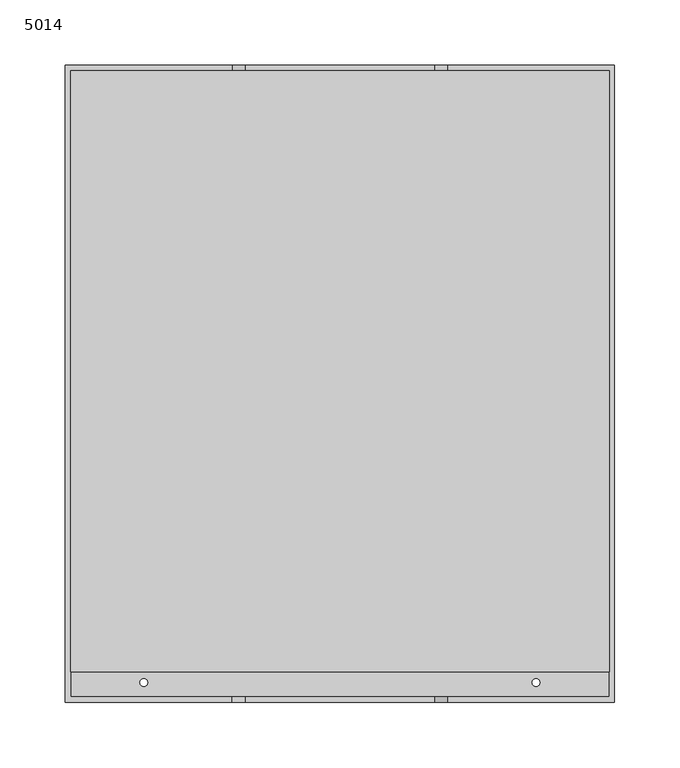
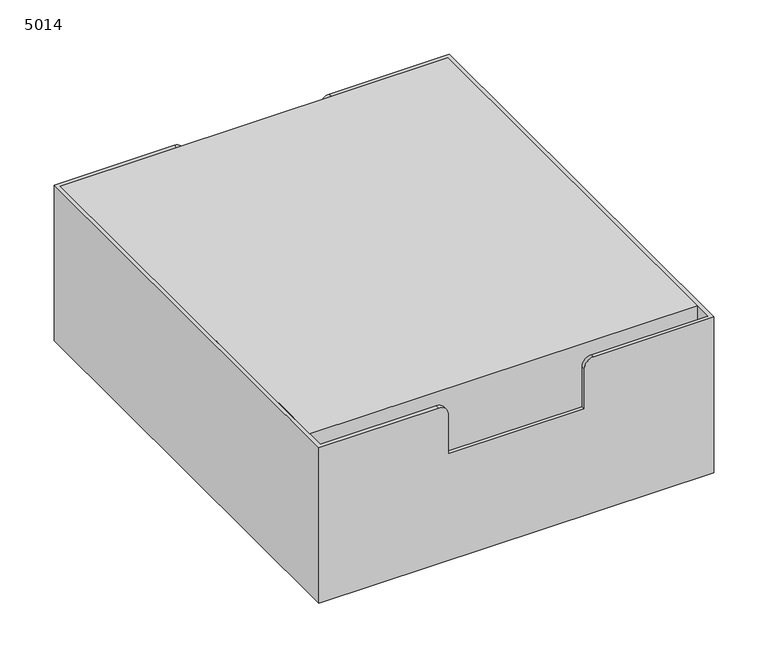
"""IFC4 building model written with IfcOpenShell, lengths in millimetres: alarm geometry, 5014_Cabinet for Batteries : 5014."""

from ifc_helpers import new_model, si_unit, frame, origin, place, context, project, spatial, polyline, circle_curve, source, transform, mapped, element, save
from ifc_brep_helpers import plane_surface, cylinder_surface, revolved_surface, advanced_brep


def alarm_5014_8c05c2c1(model_context):
    return source(origin(), model_context, "Body", "AdvancedBrep", [
        advanced_brep(
        [(206.0, 239.5, 175.0), (-206.0, 239.5, 175.0), (-206.0, -220.2, 175.0), (206.0, -220.2, 175.0), (202.0, 235.5, 171.0), (202.0, -216.2, 171.0), (-202.0, -216.2, 171.0), (-202.0, 235.5, 171.0), (206.0, -239.5, 3.0), (-206.0, -239.5, 3.0), (-206.0, 239.5, 3.0), (206.0, 239.5, 3.0), (-202.0, -216.2, 3.0), (202.0, -216.2, 3.0), (202.0, 220.2, 3.0), (-202.0, 220.2, 3.0), (-153.0, 228.5, 3.0), (-147.0, 228.5, 3.0), (147.0, 228.5, 3.0), (153.0, 228.5, 3.0), (-153.0, -228.5, 3.0), (-147.0, -228.5, 3.0), (147.0, -228.5, 3.0), (153.0, -228.5, 3.0), (-206.0, -239.5, 7.0), (-206.0, -220.2, 7.0), (206.0, -220.2, 7.0), (206.0, -239.5, 7.0), (202.0, 235.5, 7.0), (202.0, 220.2, 7.0), (-202.0, 220.2, 7.0), (-202.0, 235.5, 7.0), (-153.0, -228.5, 7.0), (-147.0, -228.5, 7.0), (147.0, -228.5, 7.0), (153.0, -228.5, 7.0), (-153.0, 228.5, 7.0), (-147.0, 228.5, 7.0), (147.0, 228.5, 7.0), (153.0, 228.5, 7.0)],
        [
            (0, 1),
            (1, 2),
            (2, 3),
            (3, 0),
            (4, 5),
            (5, 6),
            (6, 7),
            (7, 4),
            (8, 9),
            (9, 10),
            (10, 11),
            (11, 8),
            (12, 13),
            (13, 14),
            (14, 15),
            (15, 12),
            (16, 17, circle_curve(frame((-150.0, 228.5, 3.0), z_axis=(0.0, 0.0, 1.0), x_axis=(1.0, 0.0, 0.0)), 3.0)),
            (17, 16, circle_curve(frame((-150.0, 228.5, 3.0), z_axis=(0.0, 0.0, 1.0), x_axis=(1.0, 0.0, 0.0)), 3.0)),
            (18, 19, circle_curve(frame((150.0, 228.5, 3.0), z_axis=(0.0, 0.0, 1.0), x_axis=(1.0, 0.0, 0.0)), 3.0)),
            (19, 18, circle_curve(frame((150.0, 228.5, 3.0), z_axis=(0.0, 0.0, 1.0), x_axis=(1.0, 0.0, 0.0)), 3.0)),
            (20, 21, circle_curve(frame((-150.0, -228.5, 3.0), z_axis=(0.0, 0.0, 1.0), x_axis=(1.0, 0.0, 0.0)), 3.0)),
            (21, 20, circle_curve(frame((-150.0, -228.5, 3.0), z_axis=(0.0, 0.0, 1.0), x_axis=(1.0, 0.0, 0.0)), 3.0)),
            (22, 23, circle_curve(frame((150.0, -228.5, 3.0), z_axis=(0.0, 0.0, 1.0), x_axis=(1.0, 0.0, 0.0)), 3.0)),
            (23, 22, circle_curve(frame((150.0, -228.5, 3.0), z_axis=(0.0, 0.0, 1.0), x_axis=(1.0, 0.0, 0.0)), 3.0)),
            (0, 11),
            (10, 1),
            (9, 24),
            (24, 25),
            (25, 2),
            (25, 26),
            (26, 3),
            (26, 27),
            (27, 8),
            (13, 5),
            (4, 28),
            (28, 29),
            (29, 14),
            (12, 6),
            (15, 30),
            (30, 31),
            (31, 7),
            (31, 28),
            (24, 27),
            (32, 33, circle_curve(frame((-150.0, -228.5, 7.0), z_axis=(0.0, 0.0, -1.0), x_axis=(1.0, 0.0, 0.0)), 3.0)),
            (33, 32, circle_curve(frame((-150.0, -228.5, 7.0), z_axis=(0.0, 0.0, -1.0), x_axis=(1.0, 0.0, 0.0)), 3.0)),
            (34, 35, circle_curve(frame((150.0, -228.5, 7.0), z_axis=(0.0, 0.0, -1.0), x_axis=(1.0, 0.0, 0.0)), 3.0)),
            (35, 34, circle_curve(frame((150.0, -228.5, 7.0), z_axis=(0.0, 0.0, -1.0), x_axis=(1.0, 0.0, 0.0)), 3.0)),
            (30, 29),
            (36, 37, circle_curve(frame((-150.0, 228.5, 7.0), z_axis=(0.0, 0.0, -1.0), x_axis=(1.0, 0.0, 0.0)), 3.0)),
            (37, 36, circle_curve(frame((-150.0, 228.5, 7.0), z_axis=(0.0, 0.0, -1.0), x_axis=(1.0, 0.0, 0.0)), 3.0)),
            (38, 39, circle_curve(frame((150.0, 228.5, 7.0), z_axis=(0.0, 0.0, -1.0), x_axis=(1.0, 0.0, 0.0)), 3.0)),
            (39, 38, circle_curve(frame((150.0, 228.5, 7.0), z_axis=(0.0, 0.0, -1.0), x_axis=(1.0, 0.0, 0.0)), 3.0)),
            (36, 16),
            (17, 37),
            (38, 18),
            (19, 39),
            (32, 20),
            (21, 33),
            (34, 22),
            (23, 35),
        ],
        [
            plane_surface(frame((-202.0, 235.5, 175.0), z_axis=(0.0, 0.0, 1.0), x_axis=(-1.0, 0.0, 0.0))),
            plane_surface(frame((-202.0, 235.5, 171.0), z_axis=(0.0, 0.0, -1.0), x_axis=(1.0, 0.0, 0.0))),
            plane_surface(frame((-206.0, 239.5, 3.0), z_axis=(0.0, 0.0, -1.0), x_axis=(1.0, 0.0, 0.0))),
            plane_surface(frame((206.0, 239.5, 175.0), z_axis=(0.0, 1.0, 0.0), x_axis=(0.0, 0.0, -1.0))),
            plane_surface(frame((-206.0, 239.5, 175.0), z_axis=(-1.0, 0.0, 0.0), x_axis=(0.0, 0.0, -1.0))),
            plane_surface(frame((-206.0, -220.2, 175.0), z_axis=(0.0, -1.0, 0.0), x_axis=(0.0, 0.0, -1.0))),
            plane_surface(frame((206.0, -220.2, 175.0), z_axis=(1.0, 0.0, 0.0), x_axis=(0.0, 0.0, -1.0))),
            plane_surface(frame((202.0, 235.5, 175.0), z_axis=(-1.0, 0.0, 0.0), x_axis=(0.0, 0.0, -1.0))),
            plane_surface(frame((202.0, -216.2, 175.0), z_axis=(0.0, 1.0, 0.0), x_axis=(0.0, 0.0, -1.0))),
            plane_surface(frame((-202.0, -216.2, 175.0), z_axis=(1.0, 0.0, 0.0), x_axis=(0.0, 0.0, -1.0))),
            plane_surface(frame((-202.0, 235.5, 175.0), z_axis=(0.0, -1.0, 0.0), x_axis=(0.0, 0.0, -1.0))),
            plane_surface(frame((-202.0, 235.5, 7.0), z_axis=(0.0, 0.0, 1.0), x_axis=(-1.0, 0.0, 0.0))),
            plane_surface(frame((-202.0, 220.2, 7.0), z_axis=(0.0, -1.0, 0.0), x_axis=(0.0, 0.0, -1.0))),
            revolved_surface(polyline([(-147.0, 228.5, 3.0), (-147.0, 228.5, 7.0)]), (-150.0, 228.5, 0.0), (0.0, 0.0, -1.0)),
            revolved_surface(polyline([(153.0, 228.5, 3.0), (153.0, 228.5, 7.0)]), (150.0, 228.5, 0.0), (0.0, 0.0, -1.0)),
            plane_surface(frame((-206.0, -239.5, 7.0), z_axis=(0.0, -1.0, 0.0), x_axis=(0.0, 0.0, -1.0))),
            revolved_surface(polyline([(-147.0, -228.5, 3.0), (-147.0, -228.5, 7.0)]), (-150.0, -228.5, 0.0), (0.0, 0.0, -1.0)),
            revolved_surface(polyline([(153.0, -228.5, 3.0), (153.0, -228.5, 7.0)]), (150.0, -228.5, 0.0), (0.0, 0.0, -1.0)),
        ],
        [
            (0, [[1, 2, 3, 4]]),
            (1, [[5, 6, 7, 8]]),
            (2, [[9, 10, 11, 12], [13, 14, 15, 16], [17, 18], [19, 20], [21, 22], [23, 24]]),
            (3, [[-1, 25, -11, 26]]),
            (4, [[-2, -26, -10, 27, 28, 29]]),
            (5, [[-3, -29, 30, 31]]),
            (6, [[-4, -31, 32, 33, -12, -25]]),
            (7, [[34, -5, 35, 36, 37, -14]]),
            (8, [[-13, 38, -6, -34]]),
            (9, [[-38, -16, 39, 40, 41, -7]]),
            (10, [[-8, -41, 42, -35]]),
            (11, [[-28, 43, -32, -30], [44, 45], [46, 47]]),
            (11, [[48, -36, -42, -40], [49, 50], [51, 52]]),
            (12, [[-48, -39, -15, -37]]),
            (13, [[-49, 53, -18, 54]]),
            (13, [[-50, -54, -17, -53]]),
            (14, [[-51, 55, -20, 56]]),
            (14, [[-52, -56, -19, -55]]),
            (15, [[-43, -27, -9, -33]]),
            (16, [[-44, 57, -22, 58]]),
            (16, [[-45, -58, -21, -57]]),
            (17, [[-46, 59, -24, 60]]),
            (17, [[-47, -60, -23, -59]]),
        ],
    ),
        advanced_brep(
        [(210.0, 243.5, 175.0), (210.0, -243.5, 175.0), (210.0, -243.5, 0.0), (210.0, 243.5, 0.0), (206.0, -239.5, 175.0), (206.0, 239.5, 175.0), (206.0, 239.5, 3.0), (206.0, -239.5, 3.0), (82.5, 243.5, 175.0), (82.5, 239.5, 175.0), (82.5, -239.5, 175.0), (82.5, -243.5, 175.0), (72.5, -243.5, 165.0), (72.5, -243.5, 120.0), (-72.5, -243.5, 120.0), (-72.5, -243.5, 165.0), (-82.5, -243.5, 175.0), (-210.0, -243.5, 175.0), (-210.0, -243.5, 0.0), (-210.0, 243.5, 0.0), (-153.0, 228.5, 0.0), (-147.0, 228.5, 0.0), (147.0, 228.5, 0.0), (153.0, 228.5, 0.0), (-153.0, -228.5, 0.0), (-147.0, -228.5, 0.0), (147.0, -228.5, 0.0), (153.0, -228.5, 0.0), (-210.0, 243.5, 175.0), (-82.5, 243.5, 175.0), (-72.5, 243.5, 165.0), (-72.5, 243.5, 120.0), (72.5, 243.5, 120.0), (72.5, 243.5, 165.0), (-206.0, -239.5, 175.0), (-82.5, -239.5, 175.0), (-72.5, -239.5, 165.0), (-72.5, -239.5, 120.0), (72.5, -239.5, 120.0), (72.5, -239.5, 165.0), (-206.0, -239.5, 3.0), (-206.0, 239.5, 175.0), (-82.5, 239.5, 175.0), (72.5, 239.5, 165.0), (72.5, 239.5, 120.0), (-72.5, 239.5, 120.0), (-72.5, 239.5, 165.0), (-206.0, 239.5, 3.0), (-153.0, 228.5, 3.0), (-147.0, 228.5, 3.0), (147.0, 228.5, 3.0), (153.0, 228.5, 3.0), (-153.0, -228.5, 3.0), (-147.0, -228.5, 3.0), (147.0, -228.5, 3.0), (153.0, -228.5, 3.0)],
        [
            (0, 1),
            (1, 2),
            (2, 3),
            (3, 0),
            (4, 5),
            (5, 6),
            (6, 7),
            (7, 4),
            (0, 8),
            (8, 9),
            (9, 5),
            (4, 10),
            (10, 11),
            (11, 1),
            (11, 12, circle_curve(frame((82.5, -243.5, 165.0), z_axis=(0.0, -1.0, 0.0), x_axis=(1.0, 0.0, 0.0)), 10.0)),
            (12, 13),
            (13, 14),
            (14, 15),
            (15, 16, circle_curve(frame((-82.5, -243.5, 165.0), z_axis=(0.0, -1.0, 0.0), x_axis=(1.0, 0.0, 0.0)), 10.0)),
            (16, 17),
            (17, 18),
            (18, 2),
            (18, 19),
            (19, 3),
            (20, 21, circle_curve(frame((-150.0, 228.5, 0.0), z_axis=(0.0, 0.0, 1.0), x_axis=(1.0, 0.0, 0.0)), 3.0)),
            (21, 20, circle_curve(frame((-150.0, 228.5, 0.0), z_axis=(0.0, 0.0, 1.0), x_axis=(1.0, 0.0, 0.0)), 3.0)),
            (22, 23, circle_curve(frame((150.0, 228.5, 0.0), z_axis=(0.0, 0.0, 1.0), x_axis=(1.0, 0.0, 0.0)), 3.0)),
            (23, 22, circle_curve(frame((150.0, 228.5, 0.0), z_axis=(0.0, 0.0, 1.0), x_axis=(1.0, 0.0, 0.0)), 3.0)),
            (24, 25, circle_curve(frame((-150.0, -228.5, 0.0), z_axis=(0.0, 0.0, 1.0), x_axis=(1.0, 0.0, 0.0)), 3.0)),
            (25, 24, circle_curve(frame((-150.0, -228.5, 0.0), z_axis=(0.0, 0.0, 1.0), x_axis=(1.0, 0.0, 0.0)), 3.0)),
            (26, 27, circle_curve(frame((150.0, -228.5, 0.0), z_axis=(0.0, 0.0, 1.0), x_axis=(1.0, 0.0, 0.0)), 3.0)),
            (27, 26, circle_curve(frame((150.0, -228.5, 0.0), z_axis=(0.0, 0.0, 1.0), x_axis=(1.0, 0.0, 0.0)), 3.0)),
            (19, 28),
            (28, 29),
            (29, 30, circle_curve(frame((-82.5, 243.5, 165.0), z_axis=(0.0, 1.0, 0.0), x_axis=(1.0, 0.0, 0.0)), 10.0)),
            (30, 31),
            (31, 32),
            (32, 33),
            (33, 8, circle_curve(frame((82.5, 243.5, 165.0), z_axis=(0.0, 1.0, 0.0), x_axis=(1.0, 0.0, 0.0)), 10.0)),
            (34, 35),
            (35, 36, circle_curve(frame((-82.5, -239.5, 165.0), z_axis=(0.0, 1.0, 0.0), x_axis=(1.0, 0.0, 0.0)), 10.0)),
            (36, 37),
            (37, 38),
            (38, 39),
            (39, 10, circle_curve(frame((82.5, -239.5, 165.0), z_axis=(0.0, 1.0, 0.0), x_axis=(1.0, 0.0, 0.0)), 10.0)),
            (7, 40),
            (40, 34),
            (39, 12),
            (38, 13),
            (37, 14),
            (36, 15),
            (35, 16),
            (34, 41),
            (41, 42),
            (42, 29),
            (28, 17),
            (9, 43, circle_curve(frame((82.5, 239.5, 165.0), z_axis=(0.0, -1.0, 0.0), x_axis=(1.0, 0.0, 0.0)), 10.0)),
            (43, 44),
            (44, 45),
            (45, 46),
            (46, 42, circle_curve(frame((-82.5, 239.5, 165.0), z_axis=(0.0, -1.0, 0.0), x_axis=(1.0, 0.0, 0.0)), 10.0)),
            (41, 47),
            (47, 6),
            (33, 43),
            (32, 44),
            (31, 45),
            (30, 46),
            (40, 47),
            (48, 49, circle_curve(frame((-150.0, 228.5, 3.0), z_axis=(0.0, 0.0, -1.0), x_axis=(1.0, 0.0, 0.0)), 3.0)),
            (49, 48, circle_curve(frame((-150.0, 228.5, 3.0), z_axis=(0.0, 0.0, -1.0), x_axis=(1.0, 0.0, 0.0)), 3.0)),
            (50, 51, circle_curve(frame((150.0, 228.5, 3.0), z_axis=(0.0, 0.0, -1.0), x_axis=(1.0, 0.0, 0.0)), 3.0)),
            (51, 50, circle_curve(frame((150.0, 228.5, 3.0), z_axis=(0.0, 0.0, -1.0), x_axis=(1.0, 0.0, 0.0)), 3.0)),
            (52, 53, circle_curve(frame((-150.0, -228.5, 3.0), z_axis=(0.0, 0.0, -1.0), x_axis=(1.0, 0.0, 0.0)), 3.0)),
            (53, 52, circle_curve(frame((-150.0, -228.5, 3.0), z_axis=(0.0, 0.0, -1.0), x_axis=(1.0, 0.0, 0.0)), 3.0)),
            (54, 55, circle_curve(frame((150.0, -228.5, 3.0), z_axis=(0.0, 0.0, -1.0), x_axis=(1.0, 0.0, 0.0)), 3.0)),
            (55, 54, circle_curve(frame((150.0, -228.5, 3.0), z_axis=(0.0, 0.0, -1.0), x_axis=(1.0, 0.0, 0.0)), 3.0)),
            (48, 20),
            (21, 49),
            (50, 22),
            (23, 51),
            (52, 24),
            (25, 53),
            (54, 26),
            (27, 55),
        ],
        [
            plane_surface(frame((210.0, -243.5, 175.0), z_axis=(1.0, 0.0, 0.0), x_axis=(0.0, -1.0, 0.0))),
            plane_surface(frame((206.0, -243.5, 175.0), z_axis=(-1.0, 0.0, 0.0), x_axis=(0.0, 1.0, 0.0))),
            plane_surface(frame((210.0, 243.5, 175.0), z_axis=(0.0, 0.0, 1.0), x_axis=(-1.0, 0.0, 0.0))),
            plane_surface(frame((210.0, -243.5, 175.0), z_axis=(0.0, -1.0, 0.0), x_axis=(-1.0, 0.0, 0.0))),
            plane_surface(frame((210.0, -243.5, 0.0), z_axis=(0.0, 0.0, -1.0), x_axis=(-1.0, 0.0, 0.0))),
            plane_surface(frame((210.0, 243.5, 0.0), z_axis=(0.0, 1.0, 0.0), x_axis=(-1.0, 0.0, 0.0))),
            plane_surface(frame((-206.0, -239.5, 0.0), z_axis=(0.0, 1.0, 0.0), x_axis=(-1.0, 0.0, 0.0))),
            cylinder_surface(frame((82.5, -243.5, 165.0), z_axis=(0.0, 1.0, 0.0), x_axis=(1.0, 0.0, 0.0)), 10.0),
            plane_surface(frame((72.5, -239.5, 120.0), z_axis=(-1.0, 0.0, 0.0), x_axis=(0.0, -1.0, 0.0))),
            plane_surface(frame((-72.5, -239.5, 120.0), z_axis=(0.0, 0.0, 1.0), x_axis=(0.0, -1.0, 0.0))),
            plane_surface(frame((-72.5, -239.5, 165.0), z_axis=(1.0, 0.0, 0.0), x_axis=(0.0, -1.0, 0.0))),
            cylinder_surface(frame((-82.5, -243.5, 165.0), z_axis=(0.0, 1.0, 0.0), x_axis=(1.0, 0.0, 0.0)), 10.0),
            plane_surface(frame((-206.0, -239.5, 175.0), z_axis=(0.0, 0.0, 1.0), x_axis=(0.0, -1.0, 0.0))),
            plane_surface(frame((206.0, 239.5, 0.0), z_axis=(0.0, -1.0, 0.0), x_axis=(0.0, 0.0, 1.0))),
            cylinder_surface(frame((82.5, 243.5, 165.0), z_axis=(0.0, -1.0, 0.0), x_axis=(1.0, 0.0, 0.0)), 10.0),
            plane_surface(frame((72.5, 239.5, 165.0), z_axis=(-1.0, 0.0, 0.0), x_axis=(0.0, 1.0, 0.0))),
            plane_surface(frame((72.5, 239.5, 120.0), z_axis=(0.0, 0.0, 1.0), x_axis=(0.0, 1.0, 0.0))),
            plane_surface(frame((-72.5, 239.5, 120.0), z_axis=(1.0, 0.0, 0.0), x_axis=(0.0, 1.0, 0.0))),
            cylinder_surface(frame((-82.5, 243.5, 165.0), z_axis=(0.0, -1.0, 0.0), x_axis=(1.0, 0.0, 0.0)), 10.0),
            plane_surface(frame((-210.0, 243.5, 175.0), z_axis=(-1.0, 0.0, 0.0), x_axis=(0.0, 0.0, -1.0))),
            plane_surface(frame((-206.0, 243.5, 175.0), z_axis=(1.0, 0.0, 0.0), x_axis=(0.0, 0.0, 1.0))),
            plane_surface(frame((-206.0, 239.5, 3.0), z_axis=(0.0, 0.0, 1.0), x_axis=(-1.0, 0.0, 0.0))),
            revolved_surface(polyline([(-147.0, 228.5, 0.0), (-147.0, 228.5, 3.0)]), (-150.0, 228.5, 0.0), (0.0, 0.0, -1.0)),
            revolved_surface(polyline([(153.0, 228.5, 0.0), (153.0, 228.5, 3.0)]), (150.0, 228.5, 0.0), (0.0, 0.0, -1.0)),
            revolved_surface(polyline([(-147.0, -228.5, 0.0), (-147.0, -228.5, 3.0)]), (-150.0, -228.5, 0.0), (0.0, 0.0, -1.0)),
            revolved_surface(polyline([(153.0, -228.5, 0.0), (153.0, -228.5, 3.0)]), (150.0, -228.5, 0.0), (0.0, 0.0, -1.0)),
        ],
        [
            (0, [[1, 2, 3, 4]]),
            (1, [[5, 6, 7, 8]]),
            (2, [[-1, 9, 10, 11, -5, 12, 13, 14]]),
            (3, [[-2, -14, 15, 16, 17, 18, 19, 20, 21, 22]]),
            (4, [[-3, -22, 23, 24], [25, 26], [27, 28], [29, 30], [31, 32]]),
            (5, [[-4, -24, 33, 34, 35, 36, 37, 38, 39, -9]]),
            (6, [[40, 41, 42, 43, 44, 45, -12, -8, 46, 47]]),
            (7, [[-45, 48, -15, -13]]),
            (8, [[-44, 49, -16, -48]]),
            (9, [[-43, 50, -17, -49]]),
            (10, [[-42, 51, -18, -50]]),
            (11, [[-41, 52, -19, -51]]),
            (12, [[-40, 53, 54, 55, -34, 56, -20, -52]]),
            (13, [[-11, 57, 58, 59, 60, 61, -54, 62, 63, -6]]),
            (14, [[-57, -10, -39, 64]]),
            (15, [[-58, -64, -38, 65]]),
            (16, [[-59, -65, -37, 66]]),
            (17, [[-60, -66, -36, 67]]),
            (18, [[-61, -67, -35, -55]]),
            (19, [[-33, -23, -21, -56]]),
            (20, [[-53, -47, 68, -62]]),
            (21, [[-7, -63, -68, -46], [69, 70], [71, 72], [73, 74], [75, 76]]),
            (22, [[-69, 77, -26, 78]]),
            (22, [[-70, -78, -25, -77]]),
            (23, [[-71, 79, -28, 80]]),
            (23, [[-72, -80, -27, -79]]),
            (24, [[-73, 81, -30, 82]]),
            (24, [[-74, -82, -29, -81]]),
            (25, [[-75, 83, -32, 84]]),
            (25, [[-76, -84, -31, -83]]),
        ],
    ),
    ])


if __name__ == "__main__":
    model = new_model("IFC4")
    model_context = context("Model", 3, world=origin())
    ifc_project = project(units=[si_unit("LENGTHUNIT", "METRE", prefix="MILLI")], contexts=[model_context])
    site = spatial("IfcSite", under=ifc_project)
    building = spatial("IfcBuilding", under=site)
    placement = place(None, origin())
    alarm_5014_shape = alarm_5014_8c05c2c1(model_context)
    element("IfcAlarm", 1, ObjectType="5014_Cabinet for Batteries : 5014", at=placement, inside=building, context=model_context, shape_type="MappedRepresentation", body=[
        mapped(alarm_5014_shape, transform((0.0, 0.0, 0.0), x_axis=(1.0, 0.0, 0.0), y_axis=(0.0, 1.0, 0.0), z_axis=(0.0, 0.0, 1.0))),
    ])
    save(model, "model.ifc")
